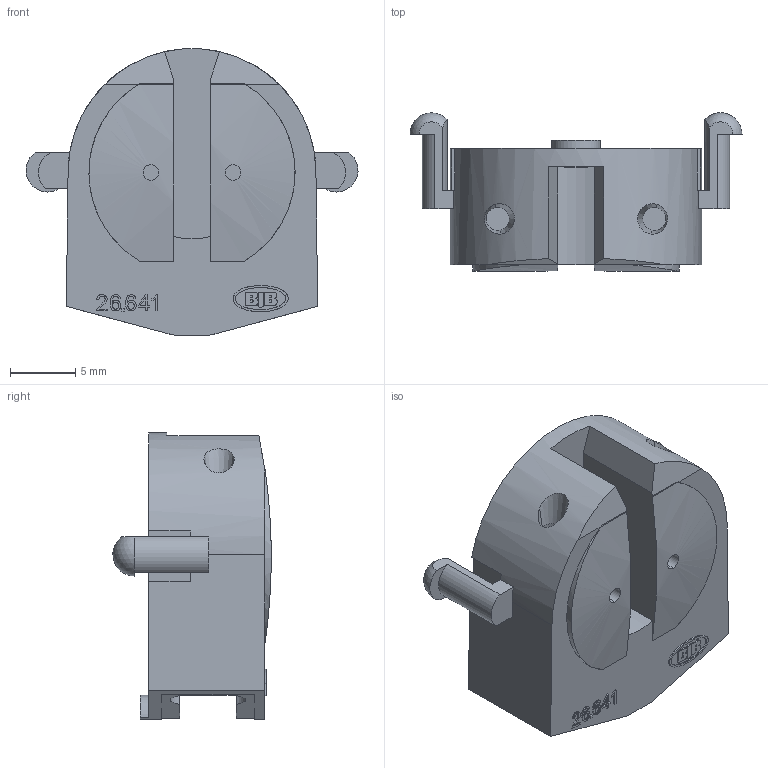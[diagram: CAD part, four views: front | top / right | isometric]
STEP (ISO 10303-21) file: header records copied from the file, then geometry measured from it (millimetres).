
FILE_DESCRIPTION((' '),'1');
FILE_NAME('00BYA0LY07.stp','2006-12-08 T',(' '),(' '),'STEP Interface v1.0 by CT CoreTechnologie','3D_Evolution v1.0 by CT CoreTechnologie',' ');
FILE_SCHEMA(('CONFIG_CONTROL_DESIGN'));
Length unit declared in the file: millimetre
Products named in the file (1): 00BYA0LY07
Bounding box: 25.45 x 12.15 x 22 mm (x, y, z)
Volume: 2737.2 mm3; surface area: 2007.4 mm2
Topology: 1 solids, 1 shells, 247 faces, 656 edges, 432 vertices
Faces by surface type: plane 154, cylinder 67, bspline 12, cone 12, sphere 2
Entity records: 10887 total; most frequent: CARTESIAN_POINT 2700, ORIENTED_EDGE 1308, DIRECTION 1260, EDGE_CURVE 654, VECTOR 440, LINE 440, VERTEX_POINT 432, AXIS2_PLACEMENT_3D 410
